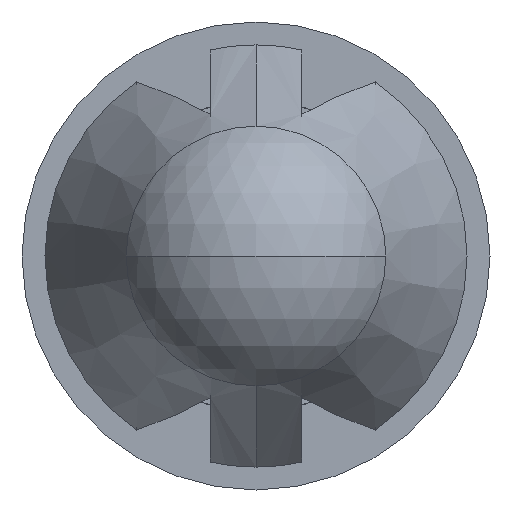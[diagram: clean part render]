
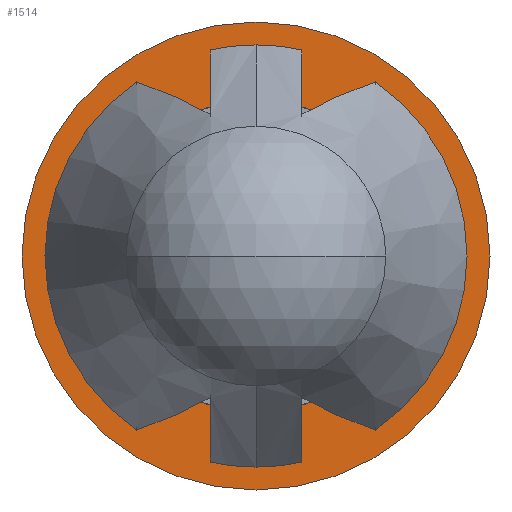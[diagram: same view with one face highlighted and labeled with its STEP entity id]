
A CAD part, front view. The second image highlights one B-rep face of the part: STEP entity #1514.
In plain terms, the highlighted planar face has unit normal (0, -1, 0).
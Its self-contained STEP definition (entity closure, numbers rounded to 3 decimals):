
#8 = AXIS2_PLACEMENT_3D ( 'NONE', #763, #768, #1014 ) ;
#64 = AXIS2_PLACEMENT_3D ( 'NONE', #1129, #1126, #1123 ) ;
#98 = AXIS2_PLACEMENT_3D ( 'NONE', #1306, #1304, #1303 ) ;
#102 = AXIS2_PLACEMENT_3D ( 'NONE', #1354, #1350, #1349 ) ;
#109 = AXIS2_PLACEMENT_3D ( 'NONE', #1181, #1316, #1177 ) ;
#167 = VERTEX_POINT ( 'NONE', #1188 ) ;
#176 = VERTEX_POINT ( 'NONE', #1301 ) ;
#184 = VERTEX_POINT ( 'NONE', #1330 ) ;
#215 = VERTEX_POINT ( 'NONE', #1134 ) ;
#274 = EDGE_LOOP ( 'NONE', ( #332, #331 ) ) ;
#289 = EDGE_LOOP ( 'NONE', ( #333, #330 ) ) ;
#330 = ORIENTED_EDGE ( 'NONE', *, *, #1410, .T. ) ;
#331 = ORIENTED_EDGE ( 'NONE', *, *, #1430, .F. ) ;
#332 = ORIENTED_EDGE ( 'NONE', *, *, #1405, .F. ) ;
#333 = ORIENTED_EDGE ( 'NONE', *, *, #1425, .T. ) ;
#457 = CIRCLE ( 'NONE', #109, 1.7 ) ;
#465 = CIRCLE ( 'NONE', #64, 2.55 ) ;
#482 = CIRCLE ( 'NONE', #102, 2.55 ) ;
#520 = CIRCLE ( 'NONE', #98, 1.7 ) ;
#534 = FACE_BOUND ( 'NONE', #274, .T. ) ;
#701 = FACE_OUTER_BOUND ( 'NONE', #289, .T. ) ;
#755 = PLANE ( 'NONE',  #8 ) ;
#763 = CARTESIAN_POINT ( 'NONE',  ( 1.7, 0., 0. ) ) ;
#768 = DIRECTION ( 'NONE',  ( 0., -1., 0. ) ) ;
#1014 = DIRECTION ( 'NONE',  ( 0., 0., -1. ) ) ;
#1123 = DIRECTION ( 'NONE',  ( 0., 0., -1. ) ) ;
#1126 = DIRECTION ( 'NONE',  ( 0., -1., 0. ) ) ;
#1129 = CARTESIAN_POINT ( 'NONE',  ( 0., 0., 0. ) ) ;
#1134 = CARTESIAN_POINT ( 'NONE',  ( 0., 0., 2.55 ) ) ;
#1177 = DIRECTION ( 'NONE',  ( 0., 0., -1. ) ) ;
#1181 = CARTESIAN_POINT ( 'NONE',  ( 0., 0., 0. ) ) ;
#1188 = CARTESIAN_POINT ( 'NONE',  ( 0., 0., -2.55 ) ) ;
#1301 = CARTESIAN_POINT ( 'NONE',  ( 0., 0., -1.7 ) ) ;
#1303 = DIRECTION ( 'NONE',  ( 0., 0., -1. ) ) ;
#1304 = DIRECTION ( 'NONE',  ( 0., -1., 0. ) ) ;
#1306 = CARTESIAN_POINT ( 'NONE',  ( 0., 0., 0. ) ) ;
#1316 = DIRECTION ( 'NONE',  ( 0., -1., 0. ) ) ;
#1330 = CARTESIAN_POINT ( 'NONE',  ( 0., 0., 1.7 ) ) ;
#1349 = DIRECTION ( 'NONE',  ( 0., 0., -1. ) ) ;
#1350 = DIRECTION ( 'NONE',  ( 0., -1., 0. ) ) ;
#1354 = CARTESIAN_POINT ( 'NONE',  ( 0., 0., 0. ) ) ;
#1405 = EDGE_CURVE ( 'NONE', #176, #184, #457, .T. ) ;
#1410 = EDGE_CURVE ( 'NONE', #215, #167, #465, .T. ) ;
#1425 = EDGE_CURVE ( 'NONE', #167, #215, #482, .T. ) ;
#1430 = EDGE_CURVE ( 'NONE', #184, #176, #520, .T. ) ;
#1514 = ADVANCED_FACE ( 'NONE', ( #701, #534 ), #755, .T. ) ;
